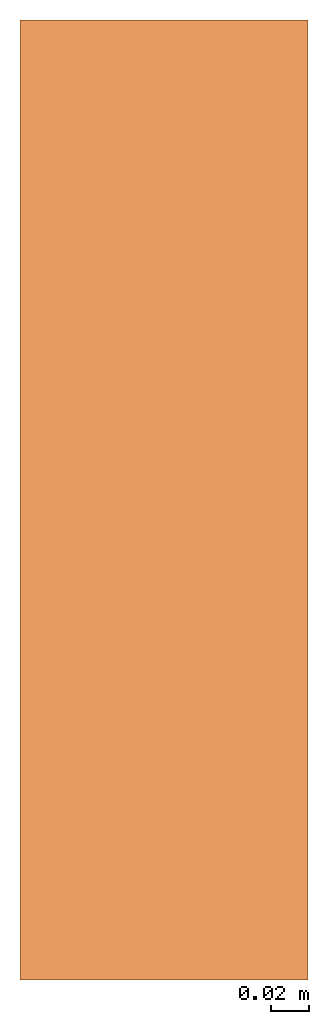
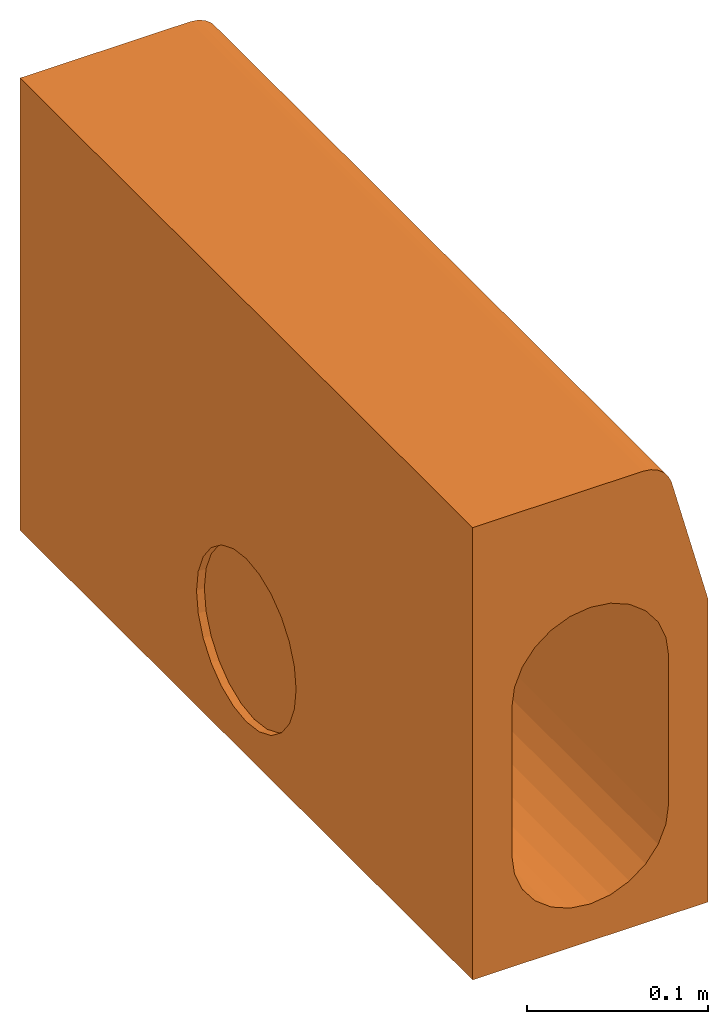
# One storey: 1 proxy.
"""IFC2X3 building model written with IfcOpenShell, lengths in millimetres."""

from ifc_helpers import new_model, entity, si_unit, converted_unit, direction, frame, origin, place, context, subcontext, project, spatial, faceted_brep, source, transform, mapped, material, element, save


model = new_model("IFC2X3")

# Units and contexts
model_context = context("Model", 3, precision=1e-06, world=origin(), true_north=direction((2.0, 6.12303176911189e-17, 1.0)))
context_of_model = context(None, 3, precision=1e-06, world=origin(), true_north=direction((2.0, 6.12303176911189e-17, 1.0)))
body_context = subcontext(model_context, "Body", "Model", "MODEL_VIEW")
ifc_project = project(units=[si_unit("LENGTHUNIT", "METRE", prefix="MILLI"), si_unit("AREAUNIT", "SQUARE_METRE", prefix="MILLI"), si_unit("VOLUMEUNIT", "CUBIC_METRE", prefix="MILLI"), converted_unit("PLANEANGLEUNIT", "DEGREE", entity("IfcRatioMeasure", 0.0174532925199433), si_unit("PLANEANGLEUNIT", "RADIAN"), dimensions=[0, 0, 0, 0, 0, 0, 0]), si_unit("TIMEUNIT", "SECOND")], contexts=[model_context, context_of_model])

# Site, building, storey
site_placement = place(None, origin())
site = spatial("IfcSite", under=ifc_project, at=site_placement, Name="Default", CompositionType="ELEMENT")
building_placement = place(site_placement, origin())
building = spatial("IfcBuilding", under=site, at=building_placement, CompositionType="ELEMENT")
storey_placement = place(building_placement, frame((0.0, 0.0, -300.0)))
storey = spatial("IfcBuildingStorey", under=building, at=storey_placement, Name="T.O. Fnd. Wall", CompositionType="ELEMENT", Elevation=-300.0)

# Proxy
ifc_material = material(Name="ACO Polymer Concrete.")
shared_shape = source(origin(), body_context, "Body", "Brep", [
    faceted_brep([(-75.0, 500.0, -180.0), (-35.355339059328, 500.0, -140.35533905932), (-25.0, 500.0, -148.301270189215), (-43.3012701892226, 500.0, -130.0), (-12.9409522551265, 500.0, -153.296291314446), (0.0, 500.0, -155.0), (-50.0, 500.0, -5.0), (-50.0, 500.0, -105.0), (-75.0, 500.0, 125.0), (-48.2962913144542, 500.0, -117.940952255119), (-48.2962913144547, 500.0, 7.94095225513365), (12.9409522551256, 500.0, -153.296291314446), (75.0, 500.0, -180.0), (25.0, 500.0, -148.301270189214), (35.3553390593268, 500.0, -140.35533905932), (43.3012701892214, 500.0, -130.0), (50.0, 500.0, -105.0), (75.0, 500.0, 25.0), (48.2962913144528, 500.0, -117.940952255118), (50.0, 500.0, -5.0), (-35.3553390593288, 500.0, 30.3553390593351), (-43.3012701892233, 500.0, 20.0), (-25.0, 500.0, 38.3012701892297), (33.6258679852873, 500.0, 125.0), (-12.9409522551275, 500.0, 43.2962913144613), (12.9409522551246, 500.0, 43.2962913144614), (0.0, 500.0, 45.0), (51.9784586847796, 500.0, 110.917561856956), (25.0, 500.0, 38.30127018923), (43.3012701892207, 500.0, 20.0), (35.3553390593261, 500.0, 30.3553390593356), (48.2962913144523, 500.0, 7.94095225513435), (43.1258679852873, 500.0, 122.454482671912), (47.0608968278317, 500.0, 119.435028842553), (50.0803506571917, 500.0, 115.500000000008), (38.5434298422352, 500.0, 124.3525906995), (-12.9409522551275, 0.0, 43.2962913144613), (0.0, 0.0, 45.0), (33.6258679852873, 0.0, 125.0), (-75.0, 0.0, 125.0), (12.9409522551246, 0.0, 43.2962913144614), (51.9784586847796, 0.0, 110.917561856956), (-43.3012701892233, 0.0, 20.0), (-35.3553390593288, 0.0, 30.3553390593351), (-25.0, 0.0, 38.3012701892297), (-48.2962913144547, 0.0, 7.94095225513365), (25.0, 0.0, 38.30127018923), (43.1258679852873, 0.0, 122.454482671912), (38.5434298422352, 0.0, 124.3525906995), (47.0608968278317, 0.0, 119.435028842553), (50.0803506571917, 0.0, 115.500000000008), (35.3553390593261, 0.0, 30.3553390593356), (43.3012701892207, 0.0, 20.0), (75.0, 0.0, 25.0), (48.2962913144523, 0.0, 7.94095225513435), (50.0, 0.0, -5.0), (-50.0, 0.0, -105.0), (-50.0, 0.0, -5.0), (-75.0, 0.0, -180.0), (-48.2962913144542, 0.0, -117.940952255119), (-43.3012701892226, 0.0, -130.0), (-35.355339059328, 0.0, -140.35533905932), (-25.0, 0.0, -148.301270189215), (-12.9409522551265, 0.0, -153.296291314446), (0.0, 0.0, -155.0), (75.0, 0.0, -180.0), (48.2962913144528, 0.0, -117.940952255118), (43.3012701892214, 0.0, -130.0), (50.0, 0.0, -105.0), (12.9409522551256, 0.0, -153.296291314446), (35.3553390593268, 0.0, -140.35533905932), (25.0, 0.0, -148.301270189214), (-75.0, 202.368602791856, -74.9972079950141), (-75.0, 196.874079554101, -88.2621605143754), (-75.0, 211.10912703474, -63.606335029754), (-75.0, 250.0, -47.4972079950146), (-75.0, 235.764952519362, -49.3712875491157), (-75.0, 222.500000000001, -54.8658107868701), (-75.0, 195.0, -102.497207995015), (-75.0, 196.874079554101, -116.732255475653), (-75.0, 202.368602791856, -129.997207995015), (-75.0, 211.10912703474, -141.388080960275), (-75.0, 222.5, -150.128605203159), (-75.0, 235.764952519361, -155.623128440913), (-75.0, 250.0, -157.497207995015), (-75.0, 277.500000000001, -54.8658107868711), (-75.0, 264.23504748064, -49.3712875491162), (-75.0, 288.890872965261, -63.6063350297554), (-75.0, 303.125920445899, -88.2621605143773), (-75.0, 297.631397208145, -74.9972079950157), (-75.0, 305.0, -102.497207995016), (-75.0, 264.235047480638, -155.623128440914), (-75.0, 277.499999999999, -150.128605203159), (-75.0, 297.631397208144, -129.997207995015), (-75.0, 303.125920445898, -116.732255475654), (-75.0, 288.89087296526, -141.388080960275), (33.6258679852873, 152.199845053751, 125.0), (51.9784586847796, 423.900064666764, 110.917561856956), (45.1923351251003, 383.807890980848, 121.073713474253), (48.6995814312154, 348.576324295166, 117.566467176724), (50.6694822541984, 104.875634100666, 114.397333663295), (48.6995813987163, 151.423670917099, 117.566467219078), (40.8968531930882, 348.576326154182, 123.553711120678), (37.0249115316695, 364.14990201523, 124.69348825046), (37.6444103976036, 238.971100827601, 124.57017277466), (50.5232021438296, 238.971095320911, 114.687928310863), (51.9784586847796, 304.399745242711, 110.917561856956), (50.8026538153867, 364.149900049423, 114.121454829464), (45.1923350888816, 116.192108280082, 121.073713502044), (47.9951537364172, 249.999998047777, 118.43075327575), (41.9140087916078, 250.0, 123.09697990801), (45.1923351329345, 249.999999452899, 121.073713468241), (33.6258679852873, 423.900077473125, 125.0), (51.9784586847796, 152.199872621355, 110.917561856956), (40.89685314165, 151.423674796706, 123.553711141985), (33.6258679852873, 304.399690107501, 125.0), (37.325857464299, 104.875635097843, 124.636257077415), (-70.0, 297.631397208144, -74.9972079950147), (-70.0, 303.125920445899, -88.262160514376), (-70.0, 250.0, -47.4972079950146), (-70.0, 277.5, -54.8658107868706), (-70.0, 288.89087296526, -63.6063350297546), (-70.0, 264.235047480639, -49.3712875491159), (-70.0, 305.0, -102.497207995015), (-70.0, 195.0, -102.497207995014), (-70.0, 303.125920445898, -116.732255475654), (-70.0, 297.631397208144, -129.997207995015), (-70.0, 288.89087296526, -141.388080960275), (-70.0, 277.499999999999, -150.128605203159), (-70.0, 264.235047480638, -155.623128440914), (-70.0, 250.0, -157.497207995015), (-70.0, 211.10912703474, -63.6063350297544), (-70.0, 222.5, -54.8658107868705), (-70.0, 196.874079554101, -88.2621605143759), (-70.0, 202.368602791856, -74.9972079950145), (-70.0, 235.764952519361, -155.623128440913), (-70.0, 222.5, -150.128605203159), (-70.0, 211.10912703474, -141.388080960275), (-70.0, 202.368602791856, -129.997207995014), (-70.0, 196.874079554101, -116.732255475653), (-70.0, 235.764952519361, -49.3712875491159)], [[[0, 1, 2]], [[1, 0, 3]], [[2, 4, 0]], [[0, 4, 5]], [[6, 7, 0, 8]], [[9, 3, 0]], [[10, 6, 8]], [[7, 9, 0]], [[5, 11, 12, 0]], [[12, 13, 14]], [[13, 12, 11]], [[14, 15, 12]], [[16, 17, 12, 18]], [[15, 18, 12]], [[17, 16, 19]], [[20, 21, 8]], [[20, 8, 22]], [[8, 23, 24, 22]], [[25, 26, 23]], [[23, 26, 24]], [[27, 28, 25, 23]], [[21, 10, 8]], [[17, 29, 30, 27]], [[31, 17, 19]], [[17, 31, 29]], [[23, 32, 33, 34]], [[34, 27, 23]], [[27, 30, 28]], [[23, 35, 32]], [[36, 37, 38, 39]], [[40, 41, 38, 37]], [[42, 43, 39]], [[44, 36, 39]], [[43, 44, 39]], [[39, 45, 42]], [[41, 40, 46]], [[47, 48, 38, 49]], [[50, 49, 38, 41]], [[51, 52, 53, 41]], [[53, 52, 54]], [[53, 54, 55]], [[46, 51, 41]], [[56, 57, 58]], [[56, 58, 59]], [[57, 45, 39, 58]], [[60, 58, 61]], [[58, 60, 59]], [[62, 61, 58]], [[63, 62, 58]], [[64, 63, 58, 65]], [[66, 67, 65]], [[65, 53, 68, 66]], [[69, 64, 65]], [[70, 71, 65]], [[65, 71, 69]], [[70, 65, 67]], [[68, 53, 55]], [[39, 72, 73, 58]], [[72, 39, 74]], [[75, 76, 39, 8]], [[77, 74, 39]], [[76, 77, 39]], [[58, 78, 79]], [[78, 58, 73]], [[58, 79, 80]], [[80, 81, 58]], [[82, 83, 58]], [[81, 82, 58]], [[58, 83, 84]], [[85, 86, 8]], [[87, 85, 8]], [[88, 89, 8, 0]], [[8, 89, 87]], [[0, 90, 88]], [[86, 75, 8]], [[91, 92, 0]], [[84, 91, 0]], [[93, 94, 0]], [[95, 0, 92]], [[0, 95, 93]], [[94, 90, 0]], [[84, 0, 58]], [[12, 65, 58, 0]], [[17, 53, 65, 12]], [[8, 39, 38, 96]], [[6, 57, 56, 7]], [[42, 45, 10, 21]], [[43, 42, 21, 20]], [[36, 44, 22, 24]], [[44, 43, 20, 22]], [[37, 36, 24, 26]], [[45, 57, 6, 10]], [[46, 40, 25, 28]], [[51, 46, 28, 30]], [[54, 52, 29, 31]], [[52, 51, 30, 29]], [[55, 54, 31, 19]], [[26, 25, 40, 37]], [[16, 68, 55, 19]], [[70, 67, 15, 14]], [[69, 71, 13, 11]], [[71, 70, 14, 13]], [[64, 69, 11, 5]], [[16, 18, 66, 68]], [[67, 66, 18, 15]], [[62, 63, 4, 2]], [[61, 62, 2, 1]], [[59, 60, 3, 9]], [[60, 61, 1, 3]], [[56, 59, 9, 7]], [[5, 4, 63, 64]], [[27, 97, 53, 17]], [[33, 98, 99]], [[50, 100, 101]], [[102, 103, 104]], [[105, 106, 107]], [[34, 33, 99]], [[107, 34, 99]], [[108, 101, 109]], [[32, 35, 102]], [[33, 32, 98]], [[50, 101, 49]], [[110, 98, 102]], [[34, 97, 27]], [[111, 108, 109, 98]], [[35, 23, 112]], [[41, 113, 100]], [[47, 114, 48]], [[103, 112, 115]], [[108, 114, 47]], [[114, 116, 48]], [[47, 49, 108]], [[111, 98, 110, 108]], [[96, 116, 104]], [[113, 106, 105]], [[102, 98, 32]], [[48, 116, 38]], [[101, 108, 49]], [[34, 107, 97]], [[106, 97, 107]], [[99, 109, 105]], [[99, 105, 107]], [[105, 101, 100]], [[104, 103, 115]], [[112, 103, 35]], [[35, 103, 102]], [[96, 104, 115]], [[104, 114, 110]], [[104, 110, 102]], [[108, 110, 114]], [[41, 100, 50]], [[105, 100, 113]], [[105, 109, 101]], [[98, 109, 99]], [[104, 116, 114]], [[38, 116, 96]], [[117, 118, 119, 120]], [[121, 117, 120]], [[119, 122, 120]], [[118, 123, 124, 119]], [[123, 125, 126, 127]], [[127, 128, 129, 130]], [[123, 127, 130, 124]], [[131, 132, 119, 124]], [[131, 124, 133, 134]], [[130, 135, 136, 124]], [[137, 138, 124, 136]], [[139, 124, 138]], [[119, 132, 140]], [[118, 88, 90, 123]], [[117, 89, 88, 118]], [[120, 85, 87, 121]], [[121, 87, 89, 117]], [[122, 86, 85, 120]], [[86, 122, 119, 75]], [[140, 76, 75, 119]], [[132, 77, 76, 140]], [[134, 72, 74, 131]], [[131, 74, 77, 132]], [[133, 73, 72, 134]], [[73, 133, 124, 78]], [[139, 79, 78, 124]], [[138, 80, 79, 139]], [[136, 82, 81, 137]], [[137, 81, 80, 138]], [[135, 83, 82, 136]], [[83, 135, 130, 84]], [[129, 91, 84, 130]], [[128, 92, 91, 129]], [[126, 93, 95, 127]], [[127, 95, 92, 128]], [[125, 94, 93, 126]], [[94, 125, 123, 90]], [[8, 96, 115, 112]], [[8, 112, 23]], [[53, 97, 106, 113]], [[53, 113, 41]]]),
])
proxy_placement = place(storey_placement, frame((-4264.21056397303, -6896.5502196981, 300.0)))
element("IfcBuildingElementProxy", 1, at=proxy_placement, inside=storey, material=ifc_material, Name="Civil-Drainage-Channel-ACO-KerbDrain-HB305 - PART 1:7972 - Blind unit - 500mm LG:7972 - Blind unit - 500mm LG", ObjectType="7972 - Blind unit - 500mm LG", CompositionType="ELEMENT", context=body_context, shape_type="MappedRepresentation", body=[
    mapped(shared_shape, transform((0.0, 0.0, 0.0), scale=1.0)),
])

save(model, "model.ifc")
